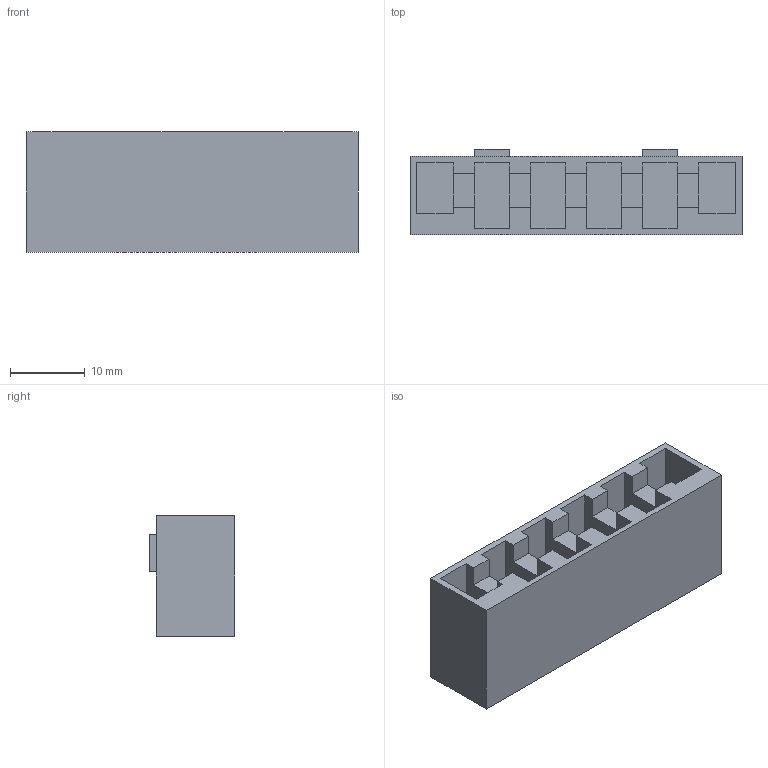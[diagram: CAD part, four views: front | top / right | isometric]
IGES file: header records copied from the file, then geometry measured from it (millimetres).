
Start section:  PTC IGES file: j4-cnp1.igs
Global section: file name: j4-cnp1.igs; native system: Pro/ENGINEER by Parametric Technology Corporation; preprocessor: 2011490; author: JE18792; organization: Unknown; date: 20131128.192100; units: millimetre
Bounding box: 44.5 x 11.5 x 16.18 mm (x, y, z)
Volume: 5180.4 mm3; surface area: 4242.6 mm2
Topology: 1 solids, 1 shells, 61 faces, 168 edges, 112 vertices
Faces by surface type: bspline 61
